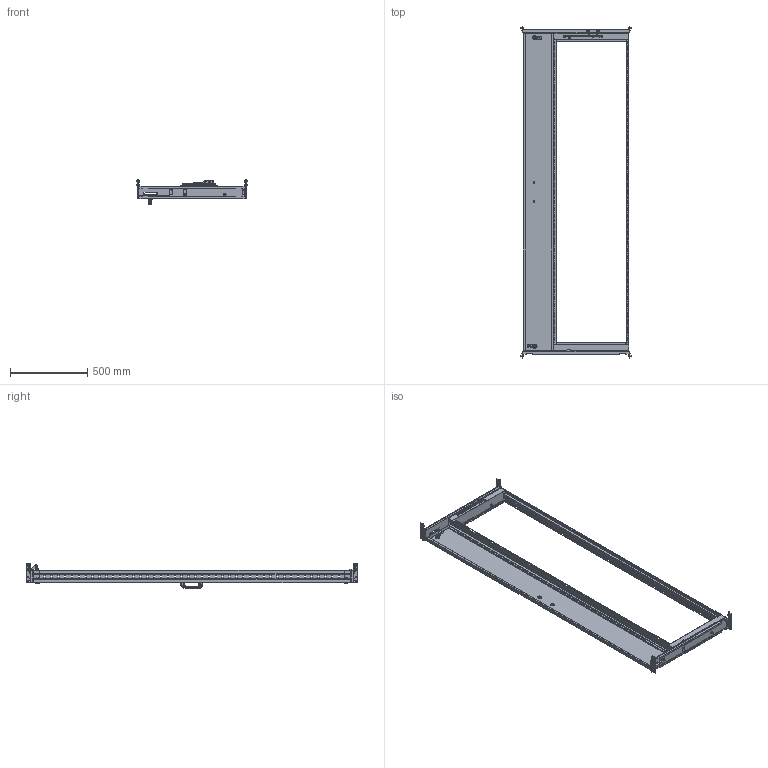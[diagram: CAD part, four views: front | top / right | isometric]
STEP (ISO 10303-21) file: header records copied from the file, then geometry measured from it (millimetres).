
FILE_DESCRIPTION(('Open CASCADE Model'),'2;1');
FILE_NAME('Open CASCADE Shape Model','2025-03-20T10:47:09',('Author'),( 'Open CASCADE'),'Open CASCADE STEP processor 7.8','Open CASCADE 7.8' ,'Unknown');
FILE_SCHEMA(('AUTOMOTIVE_DESIGN { 1 0 10303 214 1 1 1 1 }'));
Length unit declared in the file: millimetre
Products named in the file (34): Compound1; Compound2; Solid1; Solid2; Solid3; Compound3; Solid4; Solid5; Solid6; Solid7; Compound4; Solid8; Solid9; Solid10; Solid11; Solid12; Solid13; Solid14; Solid15; Solid16; Solid17; Solid18; Solid19; Solid20; Solid21; Solid22; Solid23; Solid24; Solid25; Compound5; Solid26; Solid27; Solid28; Solid29
Assembly tree (56 placements, depth 3):
  Compound1
    Compound2
      Solid1
      Solid2  x2
      Solid3
    Compound3
      Solid4
      Solid2  x2
      Solid3
    Solid5  x2
    Solid6  x2
    Solid7
    Compound4
      Solid8  x2
      Solid9
      Solid10  x2
      Solid11
      Solid12  x2
      Solid13
      Solid14  x2
    Solid15
    Solid16  x2
    Solid17  x2
    Solid18
    Solid19
    Solid20
    Solid21
    Solid22
    Solid23  x2
    Solid24  x4
    Solid25  x8
    Compound5
      Solid26
      Solid27
    Solid28
    Solid29
Bounding box: 726 x 2155 x 165.5 mm (x, y, z)
Volume: 2523775.2 mm3; surface area: 3259823.9 mm2
Topology: 54 solids, 74 shells, 6285 faces, 17672 edges, 11469 vertices
Faces by surface type: plane 4164, cylinder 728, bspline 672, cone 467, torus 176, sphere 78
Entity records: 148405 total; most frequent: CARTESIAN_POINT 53244, ORIENTED_EDGE 20930, DIRECTION 16993, EDGE_CURVE 10644, LINE 7127, VECTOR 7127, VERTEX_POINT 6887, AXIS2_PLACEMENT_3D 4933
